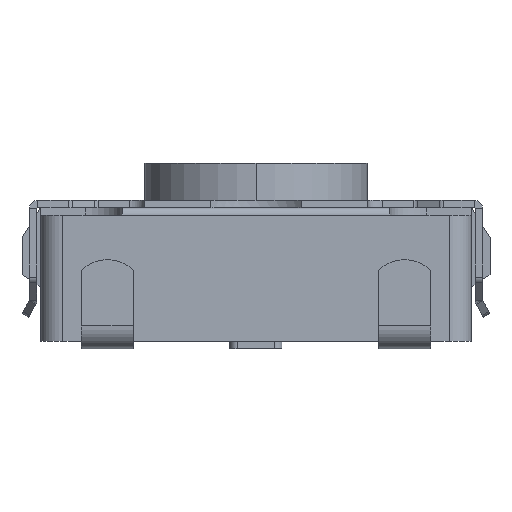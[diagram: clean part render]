
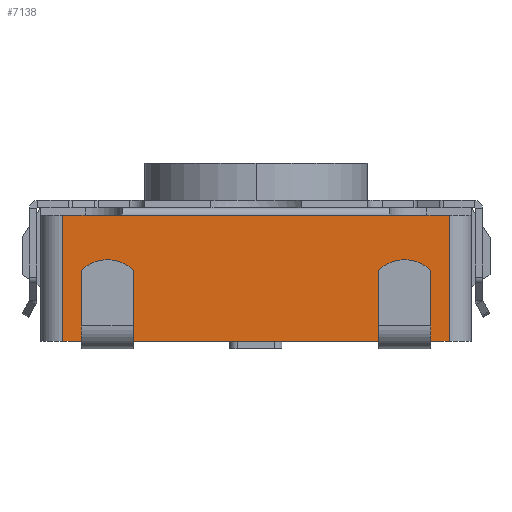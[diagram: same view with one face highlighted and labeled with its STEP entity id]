
A CAD part, left-side view. The second image highlights one B-rep face of the part: STEP entity #7138.
In plain terms, the highlighted planar face has unit normal (-1, 0, 0).
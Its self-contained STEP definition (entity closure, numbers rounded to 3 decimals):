
#496 = CARTESIAN_POINT ( 'NONE',  ( -3.1, 1.65, 0.3 ) ) ;
#598 = CARTESIAN_POINT ( 'NONE',  ( -3.1, -1.8, 1.8 ) ) ;
#599 = DIRECTION ( 'NONE',  ( 0., -1., 0. ) ) ;
#600 = VECTOR ( 'NONE', #599, 1000. ) ;
#601 = CARTESIAN_POINT ( 'NONE',  ( -3.1, 0., 1.8 ) ) ;
#602 = LINE ( 'NONE', #601, #600 ) ;
#603 = CARTESIAN_POINT ( 'NONE',  ( -3.1, 1.8, 1.8 ) ) ;
#629 = DIRECTION ( 'NONE',  ( 0., 1., 0. ) ) ;
#630 = VECTOR ( 'NONE', #629, 1000. ) ;
#631 = CARTESIAN_POINT ( 'NONE',  ( -3.1, 0., 0.3 ) ) ;
#632 = LINE ( 'NONE', #631, #630 ) ;
#727 = CARTESIAN_POINT ( 'NONE',  ( -3.1, -1.65, 0.3 ) ) ;
#817 = DIRECTION ( 'NONE',  ( 0., -1., 0. ) ) ;
#818 = VECTOR ( 'NONE', #817, 1000. ) ;
#819 = CARTESIAN_POINT ( 'NONE',  ( -3.1, 0., 1.8 ) ) ;
#820 = LINE ( 'NONE', #819, #818 ) ;
#1008 = LINE ( 'NONE', #1113, #1112 ) ;
#1034 = CARTESIAN_POINT ( 'NONE',  ( -3.1, 0., 0.1 ) ) ;
#1035 = LINE ( 'NONE', #1034, #1093 ) ;
#1092 = DIRECTION ( 'NONE',  ( 0., 1., 0. ) ) ;
#1093 = VECTOR ( 'NONE', #1092, 1000. ) ;
#1111 = DIRECTION ( 'NONE',  ( 0., 1., 0. ) ) ;
#1112 = VECTOR ( 'NONE', #1111, 1000. ) ;
#1113 = CARTESIAN_POINT ( 'NONE',  ( -3.1, 0., 0.3 ) ) ;
#1143 = CARTESIAN_POINT ( 'NONE',  ( -3.1, -2.6, 0.1 ) ) ;
#1357 = CARTESIAN_POINT ( 'NONE',  ( -3.1, 1.507, 0.1 ) ) ;
#1358 = LINE ( 'NONE', #1357, #1384 ) ;
#1370 = LINE ( 'NONE', #1426, #1425 ) ;
#1371 = CARTESIAN_POINT ( 'NONE',  ( -3.1, 2.35, 0.1 ) ) ;
#1382 = CARTESIAN_POINT ( 'NONE',  ( -3.1, -1.65, 0.1 ) ) ;
#1383 = DIRECTION ( 'NONE',  ( 0., -1., 0. ) ) ;
#1384 = VECTOR ( 'NONE', #1383, 1000. ) ;
#1416 = DIRECTION ( 'NONE',  ( 0., 0., 1. ) ) ;
#1418 = VECTOR ( 'NONE', #1416, 1000. ) ;
#1424 = DIRECTION ( 'NONE',  ( 0., 1., 0. ) ) ;
#1425 = VECTOR ( 'NONE', #1424, 1000. ) ;
#1426 = CARTESIAN_POINT ( 'NONE',  ( -3.1, 0., 0.1 ) ) ;
#1433 = VECTOR ( 'NONE', #1469, 1000. ) ;
#1448 = CARTESIAN_POINT ( 'NONE',  ( -3.1, 0., 1.8 ) ) ;
#1449 = CARTESIAN_POINT ( 'NONE',  ( -3.1, 2.35, 0.3 ) ) ;
#1451 = LINE ( 'NONE', #1449, #1418 ) ;
#1454 = LINE ( 'NONE', #1448, #1433 ) ;
#1461 = DIRECTION ( 'NONE',  ( 0., 0., 1. ) ) ;
#1463 = VECTOR ( 'NONE', #1461, 1000. ) ;
#1465 = CARTESIAN_POINT ( 'NONE',  ( -3.1, -1.65, 0.3 ) ) ;
#1466 = LINE ( 'NONE', #1465, #1463 ) ;
#1469 = DIRECTION ( 'NONE',  ( 0., -1., 0. ) ) ;
#1828 = CARTESIAN_POINT ( 'NONE',  ( -3.1, 2.6, 1.8 ) ) ;
#1876 = CARTESIAN_POINT ( 'NONE',  ( -3.1, 2.6, 0.1 ) ) ;
#1916 = DIRECTION ( 'NONE',  ( 0., 0., 1. ) ) ;
#1917 = VECTOR ( 'NONE', #1916, 1000. ) ;
#1918 = CARTESIAN_POINT ( 'NONE',  ( -3.1, 2.6, 1.9 ) ) ;
#1919 = LINE ( 'NONE', #1918, #1917 ) ;
#2090 = CARTESIAN_POINT ( 'NONE',  ( -3.1, 1.65, 0.1 ) ) ;
#6882 = VERTEX_POINT ( 'NONE', #9731 ) ;
#6884 = EDGE_CURVE ( 'NONE', #6882, #6885, #9730, .T. ) ;
#6885 = VERTEX_POINT ( 'NONE', #9691 ) ;
#7113 = VERTEX_POINT ( 'NONE', #10621 ) ;
#7117 = EDGE_CURVE ( 'NONE', #7113, #7341, #10620, .T. ) ;
#7130 = EDGE_CURVE ( 'NONE', #7600, #7167, #10551, .T. ) ;
#7138 = ADVANCED_FACE ( 'NONE', ( #10538 ), #10508, .F. ) ;
#7139 = EDGE_LOOP ( 'NONE', ( #7140, #7141, #7142, #7327, #7328, #7382, #7464, #7566, #7477, #7480, #7482, #7483, #7484, #7487 ) ) ;
#7140 = ORIENTED_EDGE ( 'NONE', *, *, #7267, .F. ) ;
#7141 = ORIENTED_EDGE ( 'NONE', *, *, #6884, .F. ) ;
#7142 = ORIENTED_EDGE ( 'NONE', *, *, #7343, .F. ) ;
#7153 = VERTEX_POINT ( 'NONE', #10459 ) ;
#7167 = VERTEX_POINT ( 'NONE', #496 ) ;
#7228 = VERTEX_POINT ( 'NONE', #727 ) ;
#7240 = VERTEX_POINT ( 'NONE', #603 ) ;
#7242 = EDGE_CURVE ( 'NONE', #7240, #7243, #602, .T. ) ;
#7243 = VERTEX_POINT ( 'NONE', #598 ) ;
#7267 = EDGE_CURVE ( 'NONE', #6885, #7228, #632, .T. ) ;
#7327 = ORIENTED_EDGE ( 'NONE', *, *, #7117, .F. ) ;
#7328 = ORIENTED_EDGE ( 'NONE', *, *, #7329, .F. ) ;
#7329 = EDGE_CURVE ( 'NONE', #7243, #7113, #820, .T. ) ;
#7336 = EDGE_CURVE ( 'NONE', #7167, #7153, #1008, .T. ) ;
#7341 = VERTEX_POINT ( 'NONE', #1143 ) ;
#7343 = EDGE_CURVE ( 'NONE', #7341, #6882, #1035, .T. ) ;
#7382 = ORIENTED_EDGE ( 'NONE', *, *, #7242, .F. ) ;
#7464 = ORIENTED_EDGE ( 'NONE', *, *, #7465, .F. ) ;
#7465 = EDGE_CURVE ( 'NONE', #7565, #7240, #1454, .T. ) ;
#7477 = ORIENTED_EDGE ( 'NONE', *, *, #7478, .F. ) ;
#7478 = EDGE_CURVE ( 'NONE', #7479, #7592, #1370, .T. ) ;
#7479 = VERTEX_POINT ( 'NONE', #1371 ) ;
#7480 = ORIENTED_EDGE ( 'NONE', *, *, #7481, .T. ) ;
#7481 = EDGE_CURVE ( 'NONE', #7479, #7153, #1451, .T. ) ;
#7482 = ORIENTED_EDGE ( 'NONE', *, *, #7336, .F. ) ;
#7483 = ORIENTED_EDGE ( 'NONE', *, *, #7130, .F. ) ;
#7484 = ORIENTED_EDGE ( 'NONE', *, *, #7485, .T. ) ;
#7485 = EDGE_CURVE ( 'NONE', #7600, #7486, #1358, .T. ) ;
#7486 = VERTEX_POINT ( 'NONE', #1382 ) ;
#7487 = ORIENTED_EDGE ( 'NONE', *, *, #7488, .T. ) ;
#7488 = EDGE_CURVE ( 'NONE', #7486, #7228, #1466, .T. ) ;
#7565 = VERTEX_POINT ( 'NONE', #1828 ) ;
#7566 = ORIENTED_EDGE ( 'NONE', *, *, #7591, .F. ) ;
#7591 = EDGE_CURVE ( 'NONE', #7592, #7565, #1919, .T. ) ;
#7592 = VERTEX_POINT ( 'NONE', #1876 ) ;
#7600 = VERTEX_POINT ( 'NONE', #2090 ) ;
#9691 = CARTESIAN_POINT ( 'NONE',  ( -3.1, -2.35, 0.3 ) ) ;
#9727 = DIRECTION ( 'NONE',  ( 0., 0., 1. ) ) ;
#9728 = VECTOR ( 'NONE', #9727, 1000. ) ;
#9729 = CARTESIAN_POINT ( 'NONE',  ( -3.1, -2.35, 1.9 ) ) ;
#9730 = LINE ( 'NONE', #9729, #9728 ) ;
#9731 = CARTESIAN_POINT ( 'NONE',  ( -3.1, -2.35, 0.1 ) ) ;
#10459 = CARTESIAN_POINT ( 'NONE',  ( -3.1, 2.35, 0.3 ) ) ;
#10504 = DIRECTION ( 'NONE',  ( 0., 0., -1. ) ) ;
#10505 = DIRECTION ( 'NONE',  ( 1., 0., 0. ) ) ;
#10506 = CARTESIAN_POINT ( 'NONE',  ( -3.1, 0., 1.9 ) ) ;
#10507 = AXIS2_PLACEMENT_3D ( 'NONE', #10506, #10505, #10504 ) ;
#10508 = PLANE ( 'NONE',  #10507 ) ;
#10538 = FACE_OUTER_BOUND ( 'NONE', #7139, .T. ) ;
#10548 = DIRECTION ( 'NONE',  ( 0., 0., 1. ) ) ;
#10549 = VECTOR ( 'NONE', #10548, 1000. ) ;
#10550 = CARTESIAN_POINT ( 'NONE',  ( -3.1, 1.65, 1.9 ) ) ;
#10551 = LINE ( 'NONE', #10550, #10549 ) ;
#10611 = DIRECTION ( 'NONE',  ( 0., 0., -1. ) ) ;
#10612 = VECTOR ( 'NONE', #10611, 1000. ) ;
#10613 = CARTESIAN_POINT ( 'NONE',  ( -3.1, -2.6, 1.9 ) ) ;
#10620 = LINE ( 'NONE', #10613, #10612 ) ;
#10621 = CARTESIAN_POINT ( 'NONE',  ( -3.1, -2.6, 1.8 ) ) ;
